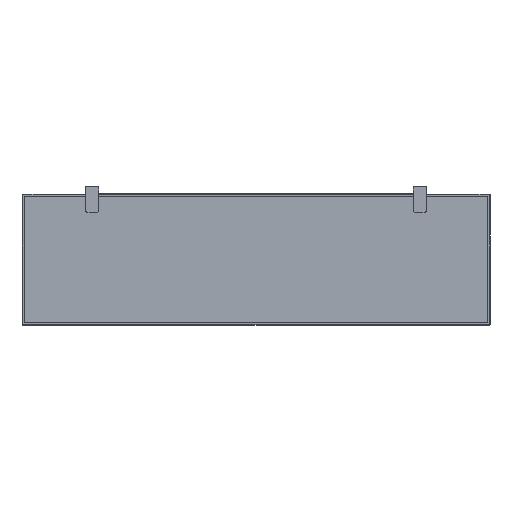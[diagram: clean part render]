
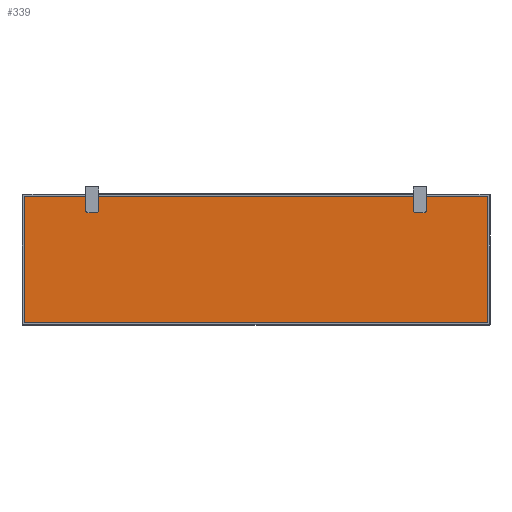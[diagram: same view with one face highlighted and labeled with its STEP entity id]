
A CAD part, top view. The second image highlights one B-rep face of the part: STEP entity #339.
In plain terms, the highlighted planar face has unit normal (0, 0, 1).
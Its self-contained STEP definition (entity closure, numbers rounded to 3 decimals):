
#339=ADVANCED_FACE('',(#547),#2671,.T.);
#547=FACE_OUTER_BOUND('',#783,.T.);
#783=EDGE_LOOP('',(#1691,#1692,#1693,#1694,#1695,#1696,#1697,#1698,#1699,
#1700,#1701,#1702));
#1691=ORIENTED_EDGE('',*,*,#2201,.T.);
#1692=ORIENTED_EDGE('',*,*,#2202,.T.);
#1693=ORIENTED_EDGE('',*,*,#2203,.T.);
#1694=ORIENTED_EDGE('',*,*,#2199,.F.);
#1695=ORIENTED_EDGE('',*,*,#2187,.F.);
#1696=ORIENTED_EDGE('',*,*,#2195,.F.);
#1697=ORIENTED_EDGE('',*,*,#2204,.T.);
#1698=ORIENTED_EDGE('',*,*,#2193,.F.);
#1699=ORIENTED_EDGE('',*,*,#2183,.F.);
#1700=ORIENTED_EDGE('',*,*,#2189,.F.);
#1701=ORIENTED_EDGE('',*,*,#2205,.T.);
#1702=ORIENTED_EDGE('',*,*,#2206,.T.);
#2183=EDGE_CURVE('',#2503,#2504,#3140,.T.);
#2187=EDGE_CURVE('',#2507,#2508,#3144,.T.);
#2189=EDGE_CURVE('',#2509,#2503,#3146,.T.);
#2193=EDGE_CURVE('',#2504,#2512,#3150,.T.);
#2195=EDGE_CURVE('',#2513,#2507,#3152,.T.);
#2199=EDGE_CURVE('',#2508,#2516,#3156,.T.);
#2201=EDGE_CURVE('',#2517,#2518,#3158,.T.);
#2202=EDGE_CURVE('',#2518,#2519,#3159,.T.);
#2203=EDGE_CURVE('',#2519,#2516,#3160,.T.);
#2204=EDGE_CURVE('',#2513,#2512,#3161,.T.);
#2205=EDGE_CURVE('',#2509,#2520,#3162,.T.);
#2206=EDGE_CURVE('',#2520,#2517,#3163,.T.);
#2503=VERTEX_POINT('',#9317);
#2504=VERTEX_POINT('',#9318);
#2507=VERTEX_POINT('',#9321);
#2508=VERTEX_POINT('',#9322);
#2509=VERTEX_POINT('',#9323);
#2512=VERTEX_POINT('',#9326);
#2513=VERTEX_POINT('',#9327);
#2516=VERTEX_POINT('',#9330);
#2517=VERTEX_POINT('',#9331);
#2518=VERTEX_POINT('',#9332);
#2519=VERTEX_POINT('',#9333);
#2520=VERTEX_POINT('',#9334);
#2671=PLANE('',#3340);
#3140=B_SPLINE_CURVE_WITH_KNOTS('',1,(#9343,#9344),.UNSPECIFIED.,.F.,.F.,
(2,2),(0.,20.6),.UNSPECIFIED.);
#3144=B_SPLINE_CURVE_WITH_KNOTS('',1,(#9351,#9352),.UNSPECIFIED.,.F.,.F.,
(2,2),(0.,20.6),.UNSPECIFIED.);
#3146=B_SPLINE_CURVE_WITH_KNOTS('',1,(#9355,#9356),.UNSPECIFIED.,.F.,.F.,
(2,2),(0.,15.),.UNSPECIFIED.);
#3150=B_SPLINE_CURVE_WITH_KNOTS('',1,(#9363,#9364),.UNSPECIFIED.,.F.,.F.,
(2,2),(0.,15.),.UNSPECIFIED.);
#3152=B_SPLINE_CURVE_WITH_KNOTS('',1,(#9367,#9368),.UNSPECIFIED.,.F.,.F.,
(2,2),(0.,15.),.UNSPECIFIED.);
#3156=B_SPLINE_CURVE_WITH_KNOTS('',1,(#9375,#9376),.UNSPECIFIED.,.F.,.F.,
(2,2),(0.,15.),.UNSPECIFIED.);
#3158=B_SPLINE_CURVE_WITH_KNOTS('',1,(#9379,#9380),.UNSPECIFIED.,.F.,.F.,
(2,2),(0.,990.),.UNSPECIFIED.);
#3159=B_SPLINE_CURVE_WITH_KNOTS('',1,(#9381,#9382),.UNSPECIFIED.,.F.,.F.,
(2,2),(0.,270.),.UNSPECIFIED.);
#3160=B_SPLINE_CURVE_WITH_KNOTS('',1,(#9383,#9384),.UNSPECIFIED.,.F.,.F.,
(2,2),(0.,134.7),.UNSPECIFIED.);
#3161=B_SPLINE_CURVE_WITH_KNOTS('',1,(#9385,#9386),.UNSPECIFIED.,.F.,.F.,
(2,2),(0.,679.4),.UNSPECIFIED.);
#3162=B_SPLINE_CURVE_WITH_KNOTS('',1,(#9387,#9388),.UNSPECIFIED.,.F.,.F.,
(2,2),(0.,134.7),.UNSPECIFIED.);
#3163=B_SPLINE_CURVE_WITH_KNOTS('',1,(#9389,#9390),.UNSPECIFIED.,.F.,.F.,
(2,2),(0.,270.),.UNSPECIFIED.);
#3340=AXIS2_PLACEMENT_3D('',#9307,#3491,$);
#3491=DIRECTION('',(0.,0.,1.));
#9307=CARTESIAN_POINT('',(-625.402,-175.17,16.75));
#9317=CARTESIAN_POINT('',(-391.69,106.842,16.75));
#9318=CARTESIAN_POINT('',(-371.09,106.842,16.75));
#9321=CARTESIAN_POINT('',(308.31,106.842,16.75));
#9322=CARTESIAN_POINT('',(328.91,106.842,16.75));
#9323=CARTESIAN_POINT('',(-391.69,121.842,16.75));
#9326=CARTESIAN_POINT('',(-371.09,121.842,16.75));
#9327=CARTESIAN_POINT('',(308.31,121.842,16.75));
#9330=CARTESIAN_POINT('',(328.91,121.842,16.75));
#9331=CARTESIAN_POINT('',(-526.39,-148.158,16.75));
#9332=CARTESIAN_POINT('',(463.61,-148.158,16.75));
#9333=CARTESIAN_POINT('',(463.61,121.842,16.75));
#9334=CARTESIAN_POINT('',(-526.39,121.842,16.75));
#9343=CARTESIAN_POINT('',(-391.69,106.842,16.75));
#9344=CARTESIAN_POINT('',(-371.09,106.842,16.75));
#9351=CARTESIAN_POINT('',(308.31,106.842,16.75));
#9352=CARTESIAN_POINT('',(328.91,106.842,16.75));
#9355=CARTESIAN_POINT('',(-391.69,121.842,16.75));
#9356=CARTESIAN_POINT('',(-391.69,106.842,16.75));
#9363=CARTESIAN_POINT('',(-371.09,106.842,16.75));
#9364=CARTESIAN_POINT('',(-371.09,121.842,16.75));
#9367=CARTESIAN_POINT('',(308.31,121.842,16.75));
#9368=CARTESIAN_POINT('',(308.31,106.842,16.75));
#9375=CARTESIAN_POINT('',(328.91,106.842,16.75));
#9376=CARTESIAN_POINT('',(328.91,121.842,16.75));
#9379=CARTESIAN_POINT('',(-526.39,-148.158,16.75));
#9380=CARTESIAN_POINT('',(463.61,-148.158,16.75));
#9381=CARTESIAN_POINT('',(463.61,-148.158,16.75));
#9382=CARTESIAN_POINT('',(463.61,121.842,16.75));
#9383=CARTESIAN_POINT('',(463.61,121.842,16.75));
#9384=CARTESIAN_POINT('',(328.91,121.842,16.75));
#9385=CARTESIAN_POINT('',(308.31,121.842,16.75));
#9386=CARTESIAN_POINT('',(-371.09,121.842,16.75));
#9387=CARTESIAN_POINT('',(-391.69,121.842,16.75));
#9388=CARTESIAN_POINT('',(-526.39,121.842,16.75));
#9389=CARTESIAN_POINT('',(-526.39,121.842,16.75));
#9390=CARTESIAN_POINT('',(-526.39,-148.158,16.75));
